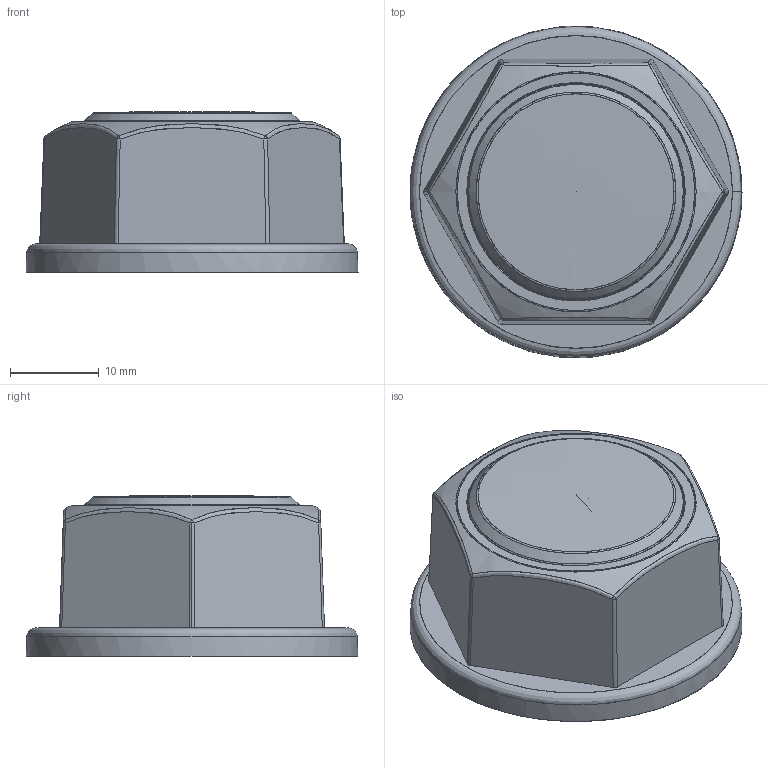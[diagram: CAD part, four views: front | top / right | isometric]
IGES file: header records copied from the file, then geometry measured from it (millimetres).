
Start section: C
Global section: file name: 8279-36.igs; native system: By Siemens PLM Incorporated; preprocessor: XPlus GENERIC/IGES 16.0.42; author: Author; organization: Title; date: 20230831.133812; units: millimetre
Bounding box: 37.4 x 37.33 x 18.11 mm (x, y, z)
Surface area: 6282.4 mm2 (no closed solid volume)
Topology: 0 solids, 0 shells, 86 faces, 451 edges, 450 vertices
Faces by surface type: bspline 86
